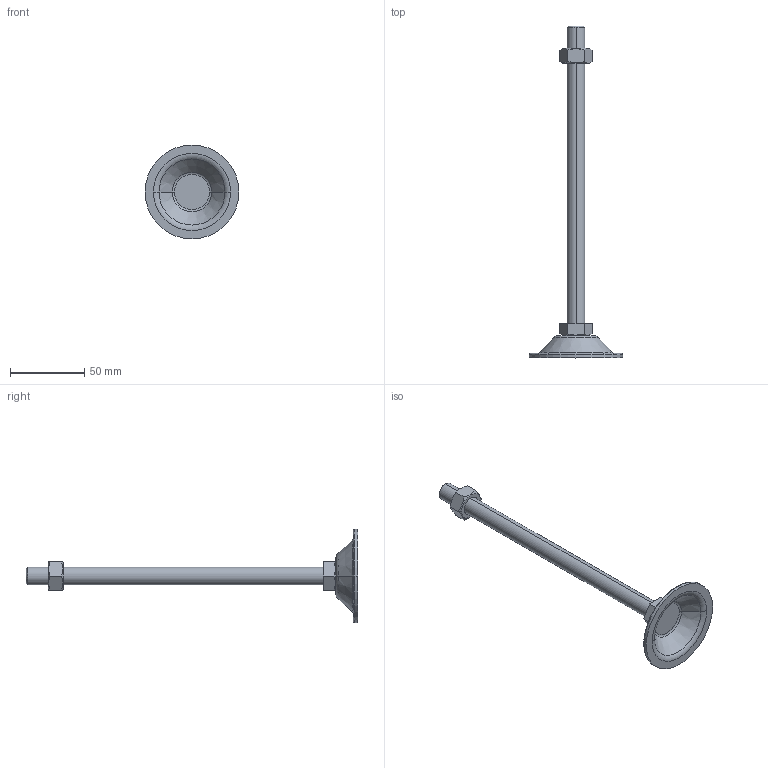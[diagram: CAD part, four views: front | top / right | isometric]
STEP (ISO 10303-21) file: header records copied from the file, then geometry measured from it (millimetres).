
FILE_DESCRIPTION (( 'STEP AP214' ), '1' );
FILE_NAME ('BL63-M12-200.step', '2021-01-06T05:38:14', ( '' ), ( '' ), 'SwSTEP 2.0', 'SolidWorks 2019', '' );
FILE_SCHEMA (( 'AUTOMOTIVE_DESIGN' ));
Length unit declared in the file: millimetre
Products named in the file (1): BL63-M12-200
Bounding box: 63 x 223 x 63 mm (x, y, z)
Volume: 38082.7 mm3; surface area: 17899.1 mm2
Topology: 3 solids, 3 shells, 53 faces, 110 edges, 66 vertices
Faces by surface type: plane 21, cone 16, torus 10, cylinder 6
Entity records: 1618 total; most frequent: CARTESIAN_POINT 428, DIRECTION 252, ORIENTED_EDGE 220, EDGE_CURVE 110, AXIS2_PLACEMENT_3D 106, VERTEX_POINT 66, EDGE_LOOP 58, ADVANCED_FACE 53
